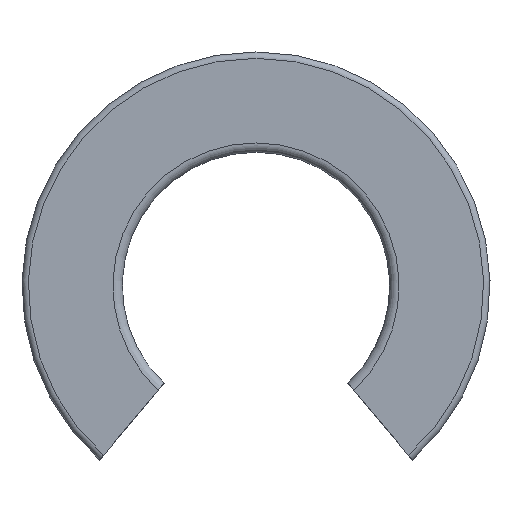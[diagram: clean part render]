
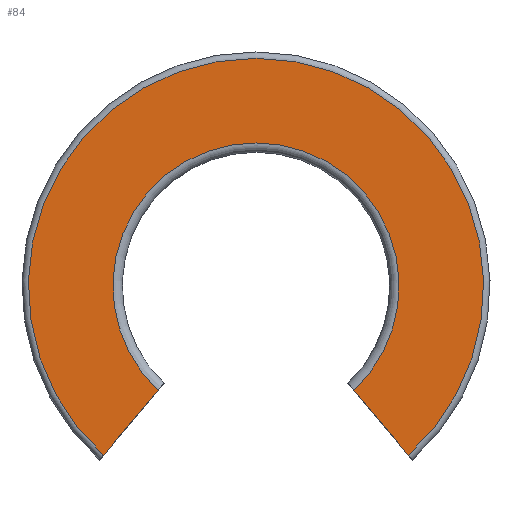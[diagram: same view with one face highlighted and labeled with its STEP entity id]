
A CAD part, left-side view. The second image highlights one B-rep face of the part: STEP entity #84.
In plain terms, the highlighted planar face has unit normal (-1, 0, 0).
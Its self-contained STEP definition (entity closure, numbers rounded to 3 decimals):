
#84=ADVANCED_FACE('',(#120),#121,.F.);
#120=FACE_OUTER_BOUND('',#172,.T.);
#121=PLANE('',#173);
#172=EDGE_LOOP('',(#309,#310,#311,#312));
#173=AXIS2_PLACEMENT_3D('',#313,#314,#315);
#309=ORIENTED_EDGE('',*,*,#430,.F.);
#310=ORIENTED_EDGE('',*,*,#485,.T.);
#311=ORIENTED_EDGE('',*,*,#466,.F.);
#312=ORIENTED_EDGE('',*,*,#452,.F.);
#313=CARTESIAN_POINT('',(0.0,13.619,0.0));
#314=DIRECTION('',(1.0,0.0,0.0));
#315=DIRECTION('',(0.0,0.0,-1.0));
#430=EDGE_CURVE('',#503,#505,#506,.T.);
#452=EDGE_CURVE('',#505,#548,#549,.T.);
#466=EDGE_CURVE('',#548,#570,#571,.T.);
#485=EDGE_CURVE('',#503,#570,#605,.T.);
#503=VERTEX_POINT('',#624);
#505=VERTEX_POINT('',#631);
#506=LINE('',#632,#633);
#548=VERTEX_POINT('',#708);
#549=CIRCLE('',#709,8.558);
#570=VERTEX_POINT('',#748);
#571=LINE('',#749,#750);
#605=CIRCLE('',#805,13.619);
#624=CARTESIAN_POINT('',(0.0,-9.116,-10.118));
#631=CARTESIAN_POINT('',(0.0,-5.859,-6.238));
#632=CARTESIAN_POINT('',(0.0,5.26,7.014));
#633=VECTOR('',#821,1.0);
#708=CARTESIAN_POINT('',(0.0,5.859,-6.238));
#709=AXIS2_PLACEMENT_3D('',#840,#841,#842);
#748=CARTESIAN_POINT('',(0.0,9.116,-10.118));
#749=CARTESIAN_POINT('',(0.0,5.994,-6.398));
#750=VECTOR('',#867,1.0);
#805=AXIS2_PLACEMENT_3D('',#887,#888,#889);
#821=DIRECTION('',(0.0,0.643,0.766));
#840=CARTESIAN_POINT('',(0.0,0.0,0.0));
#841=DIRECTION('',(-1.0,0.0,0.0));
#842=DIRECTION('',(0.0,0.0,1.0));
#867=DIRECTION('',(0.0,0.643,-0.766));
#887=CARTESIAN_POINT('',(0.0,0.0,0.0));
#888=DIRECTION('',(-1.0,0.0,0.0));
#889=DIRECTION('',(0.0,0.0,1.0));
